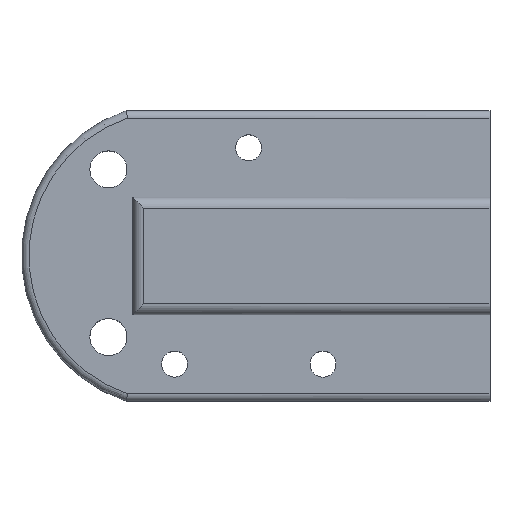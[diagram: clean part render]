
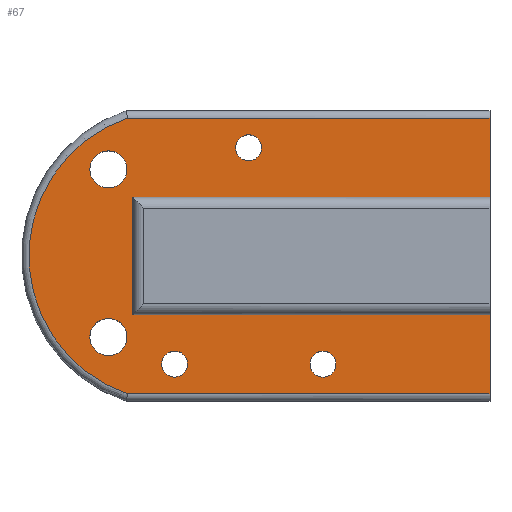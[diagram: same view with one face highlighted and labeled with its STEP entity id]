
A CAD part, top view. The second image highlights one B-rep face of the part: STEP entity #67.
In plain terms, the highlighted planar face has unit normal (0, 0, 1).
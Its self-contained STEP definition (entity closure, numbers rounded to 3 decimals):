
#67=ADVANCED_FACE('',(#3802,#3804,#3806,#3808,#3810,#3812),#3814,.T.);
#3802=FACE_BOUND('',#3803,.T.);
#3803=EDGE_LOOP('',(#6768,#6769,#6770,#6771,#6772,#6773,#6774,#6775));
#3804=FACE_BOUND('',#3805,.T.);
#3805=EDGE_LOOP('',(#6776));
#3806=FACE_BOUND('',#3807,.T.);
#3807=EDGE_LOOP('',(#6777));
#3808=FACE_BOUND('',#3809,.T.);
#3809=EDGE_LOOP('',(#6778));
#3810=FACE_BOUND('',#3811,.T.);
#3811=EDGE_LOOP('',(#6779));
#3812=FACE_BOUND('',#3813,.T.);
#3813=EDGE_LOOP('',(#6780));
#3814=PLANE('',#3815);
#3815=AXIS2_PLACEMENT_3D('',#3816,#3817,#3818);
#3816=CARTESIAN_POINT('',(0.,0.,16.));
#3817=DIRECTION('',(0.,0.,1.));
#3818=DIRECTION('',(1.,0.,0.));
#6768=ORIENTED_EDGE('',*,*,#9156,.F.);
#6769=ORIENTED_EDGE('',*,*,#9157,.F.);
#6770=ORIENTED_EDGE('',*,*,#9158,.F.);
#6771=ORIENTED_EDGE('',*,*,#9149,.F.);
#6772=ORIENTED_EDGE('',*,*,#9159,.T.);
#6773=ORIENTED_EDGE('',*,*,#9160,.T.);
#6774=ORIENTED_EDGE('',*,*,#9161,.T.);
#6775=ORIENTED_EDGE('',*,*,#9141,.F.);
#6776=ORIENTED_EDGE('',*,*,#9162,.T.);
#6777=ORIENTED_EDGE('',*,*,#9163,.T.);
#6778=ORIENTED_EDGE('',*,*,#9164,.T.);
#6779=ORIENTED_EDGE('',*,*,#9165,.T.);
#6780=ORIENTED_EDGE('',*,*,#9166,.T.);
#9141=EDGE_CURVE('',#10334,#10337,#10338,.T.);
#9149=EDGE_CURVE('',#10351,#10353,#10354,.T.);
#9156=EDGE_CURVE('',#10366,#10334,#10367,.T.);
#9157=EDGE_CURVE('',#10368,#10366,#10369,.F.);
#9158=EDGE_CURVE('',#10353,#10368,#10370,.T.);
#9159=EDGE_CURVE('',#10351,#10371,#10372,.T.);
#9160=EDGE_CURVE('',#10371,#10373,#10374,.T.);
#9161=EDGE_CURVE('',#10373,#10337,#10375,.T.);
#9162=EDGE_CURVE('',#10376,#10376,#10377,.F.);
#9163=EDGE_CURVE('',#10378,#10378,#10379,.F.);
#9164=EDGE_CURVE('',#10380,#10380,#10381,.F.);
#9165=EDGE_CURVE('',#10382,#10382,#10383,.T.);
#9166=EDGE_CURVE('',#10384,#10384,#10385,.T.);
#10334=VERTEX_POINT('',#12326);
#10337=VERTEX_POINT('',#12332);
#10338=LINE('',#12333,#12334);
#10351=VERTEX_POINT('',#12363);
#10353=VERTEX_POINT('',#12368);
#10354=LINE('',#12369,#12370);
#10366=VERTEX_POINT('',#12396);
#10367=LINE('',#12397,#12398);
#10368=VERTEX_POINT('',#12400);
#10369=LINE('',#12401,#12402);
#10370=LINE('',#12404,#12405);
#10371=VERTEX_POINT('',#12407);
#10372=LINE('',#12408,#12409);
#10373=VERTEX_POINT('',#12411);
#10374=CIRCLE('',#12412,39.252);
#10375=LINE('',#12416,#12417);
#10376=VERTEX_POINT('',#12419);
#10377=CIRCLE('',#12420,3.5);
#10378=VERTEX_POINT('',#12424);
#10379=CIRCLE('',#12425,3.5);
#10380=VERTEX_POINT('',#12429);
#10381=CIRCLE('',#12430,3.5);
#10382=VERTEX_POINT('',#12434);
#10383=CIRCLE('',#12435,5.);
#10384=VERTEX_POINT('',#12439);
#10385=CIRCLE('',#12440,5.);
#12326=CARTESIAN_POINT('',(15.,-15.841,16.));
#12332=CARTESIAN_POINT('',(15.,-37.15,16.));
#12333=CARTESIAN_POINT('',(15.,-15.841,16.));
#12334=VECTOR('',#12335,1.);
#12335=DIRECTION('',(0.,-1.,0.));
#12363=CARTESIAN_POINT('',(15.,37.15,16.));
#12368=CARTESIAN_POINT('',(15.,15.841,16.));
#12369=CARTESIAN_POINT('',(15.,37.15,16.));
#12370=VECTOR('',#12371,1.);
#12371=DIRECTION('',(0.,-1.,0.));
#12396=CARTESIAN_POINT('',(-81.252,-15.841,16.));
#12397=CARTESIAN_POINT('',(-81.252,-15.841,16.));
#12398=VECTOR('',#12399,1.);
#12399=DIRECTION('',(1.,0.,0.));
#12400=CARTESIAN_POINT('',(-81.252,15.841,16.));
#12401=CARTESIAN_POINT('',(-81.252,-15.841,16.));
#12402=VECTOR('',#12403,1.);
#12403=DIRECTION('',(0.,1.,0.));
#12404=CARTESIAN_POINT('',(15.,15.841,16.));
#12405=VECTOR('',#12406,1.);
#12406=DIRECTION('',(-1.,0.,0.));
#12407=CARTESIAN_POINT('',(-82.672,37.15,16.));
#12408=CARTESIAN_POINT('',(15.,37.15,16.));
#12409=VECTOR('',#12410,1.);
#12410=DIRECTION('',(-1.,0.,0.));
#12411=CARTESIAN_POINT('',(-82.672,-37.15,16.));
#12412=AXIS2_PLACEMENT_3D('',#12413,#12414,#12415);
#12413=CARTESIAN_POINT('',(-70.,0.,16.));
#12414=DIRECTION('',(0.,-0.,1.));
#12415=DIRECTION('',(-0.323,0.946,0.));
#12416=CARTESIAN_POINT('',(-82.672,-37.15,16.));
#12417=VECTOR('',#12418,1.);
#12418=DIRECTION('',(1.,0.,0.));
#12419=CARTESIAN_POINT('',(-46.548,29.15,16.));
#12420=AXIS2_PLACEMENT_3D('',#12421,#12422,#12423);
#12421=CARTESIAN_POINT('',(-50.048,29.15,16.));
#12422=DIRECTION('',(0.,0.,1.));
#12423=DIRECTION('',(1.,0.,0.));
#12424=CARTESIAN_POINT('',(-26.5,-29.15,16.));
#12425=AXIS2_PLACEMENT_3D('',#12426,#12427,#12428);
#12426=CARTESIAN_POINT('',(-30.,-29.15,16.));
#12427=DIRECTION('',(0.,0.,1.));
#12428=DIRECTION('',(1.,0.,0.));
#12429=CARTESIAN_POINT('',(-66.5,-29.15,16.));
#12430=AXIS2_PLACEMENT_3D('',#12431,#12432,#12433);
#12431=CARTESIAN_POINT('',(-70.,-29.15,16.));
#12432=DIRECTION('',(0.,0.,1.));
#12433=DIRECTION('',(1.,0.,0.));
#12434=CARTESIAN_POINT('',(-92.818,-21.851,16.));
#12435=AXIS2_PLACEMENT_3D('',#12436,#12437,#12438);
#12436=CARTESIAN_POINT('',(-87.818,-21.851,16.));
#12437=DIRECTION('',(-0.,-0.,-1.));
#12438=DIRECTION('',(-1.,0.,0.));
#12439=CARTESIAN_POINT('',(-92.818,23.326,16.));
#12440=AXIS2_PLACEMENT_3D('',#12441,#12442,#12443);
#12441=CARTESIAN_POINT('',(-87.818,23.326,16.));
#12442=DIRECTION('',(-0.,-0.,-1.));
#12443=DIRECTION('',(-1.,0.,0.));
